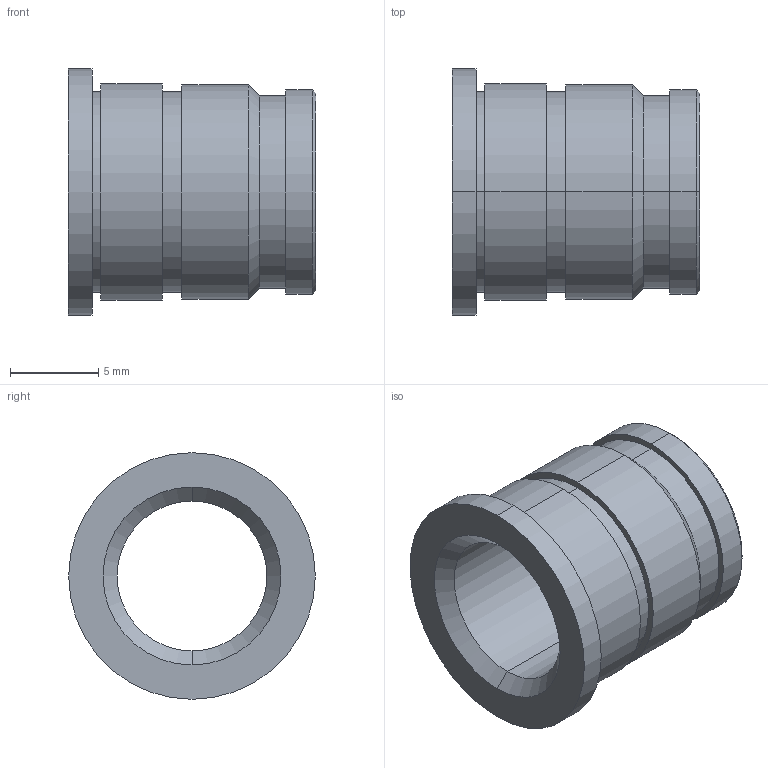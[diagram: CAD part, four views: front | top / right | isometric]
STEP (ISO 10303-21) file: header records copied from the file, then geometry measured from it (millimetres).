
FILE_DESCRIPTION (( 'STEP AP203' ), '1' );
FILE_NAME ('FSUK-HISH-M10-S.STEP', '2021-04-15T08:57:58', ( '' ), ( '' ), 'SwSTEP 2.0', 'SolidWorks 2021', '' );
FILE_SCHEMA (( 'CONFIG_CONTROL_DESIGN' ));
Length unit declared in the file: millimetre
Products named in the file (1): FSUK-HISH-M10-S
Bounding box: 14.05 x 14 x 14 mm (x, y, z)
Volume: 793.4 mm3; surface area: 1146.6 mm2
Topology: 1 solids, 1 shells, 31 faces, 62 edges, 38 vertices
Faces by surface type: cylinder 16, cone 8, plane 7
Entity records: 895 total; most frequent: DIRECTION 164, CARTESIAN_POINT 132, ORIENTED_EDGE 124, AXIS2_PLACEMENT_3D 70, EDGE_CURVE 62, VERTEX_POINT 38, CIRCLE 38, EDGE_LOOP 38
